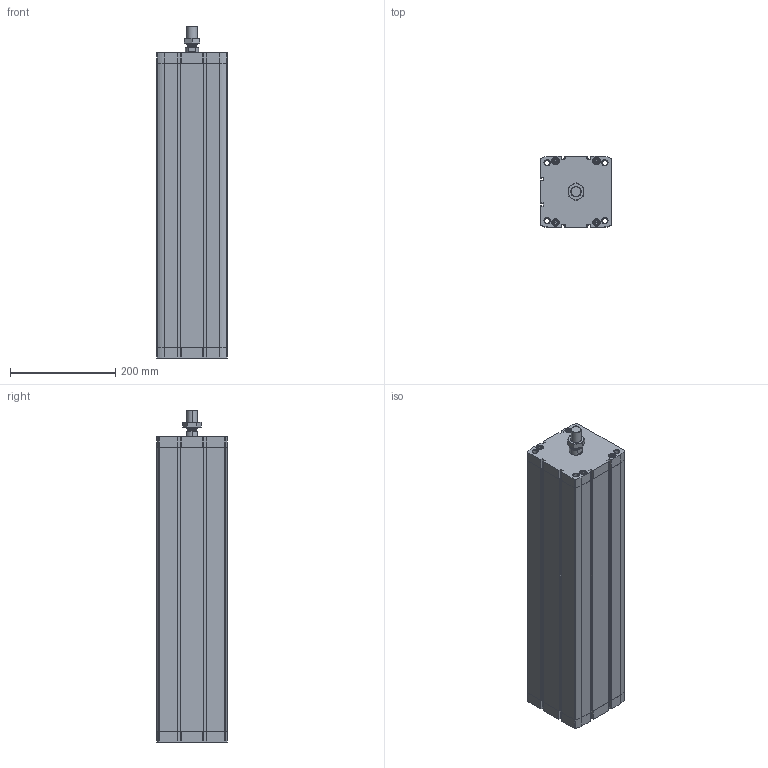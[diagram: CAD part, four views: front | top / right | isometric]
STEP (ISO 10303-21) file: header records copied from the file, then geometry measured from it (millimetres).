
FILE_DESCRIPTION (( 'STEP AP203' ), '1' );
FILE_NAME ('CCN125-500M.STEP', '2020-06-05T19:26:43', ( '' ), ( '' ), 'SwSTEP 2.0', 'SolidWorks 2019', '' );
FILE_SCHEMA (( 'CONFIG_CONTROL_DESIGN' ));
Length unit declared in the file: millimetre
Products named in the file (1): CCN125-500M
Bounding box: 134.6 x 134.6 x 632 mm (x, y, z)
Volume: 4201150.1 mm3; surface area: 782692.4 mm2
Topology: 3 solids, 3 shells, 555 faces, 1412 edges, 886 vertices
Faces by surface type: plane 275, cylinder 196, cone 80, torus 4
Entity records: 18163 total; most frequent: CARTESIAN_POINT 4452, DIRECTION 2966, ORIENTED_EDGE 2792, EDGE_CURVE 1396, AXIS2_PLACEMENT_3D 1092, VERTEX_POINT 886, VECTOR 782, LINE 782
